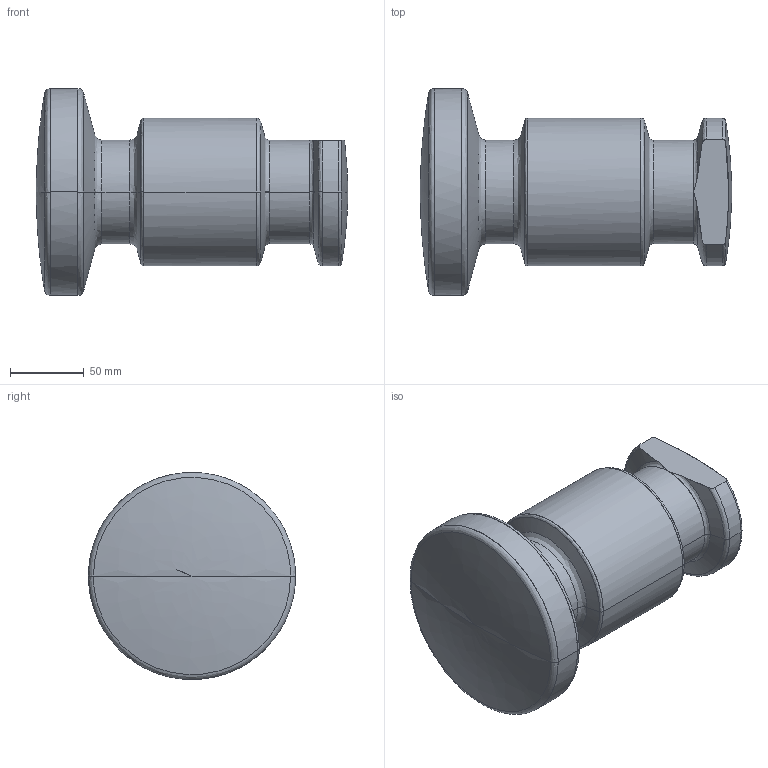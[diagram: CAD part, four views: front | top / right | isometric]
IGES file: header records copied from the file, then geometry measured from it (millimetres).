
Global section: file name: E:\UnigraphicsGraphicData\MISUMI_PRESS-PARTS\IGES\3d_chfl70_03519_r00.igs; native system: NX V5.0; preprocessor: UGS NX IGES V5.0; author: MISUMI; date: 20110105.160217; units: millimetre
Bounding box: 210.5 x 140 x 139.89 mm (x, y, z)
Surface area: 97864 mm2 (no closed solid volume)
Topology: 0 solids, 0 shells, 48 faces, 216 edges, 212 vertices
Faces by surface type: bspline 48
